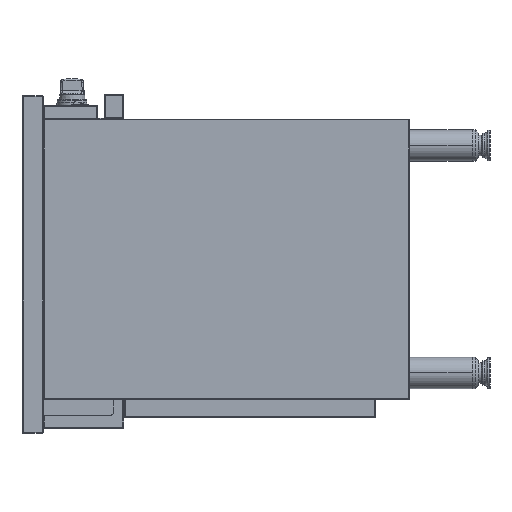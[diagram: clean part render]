
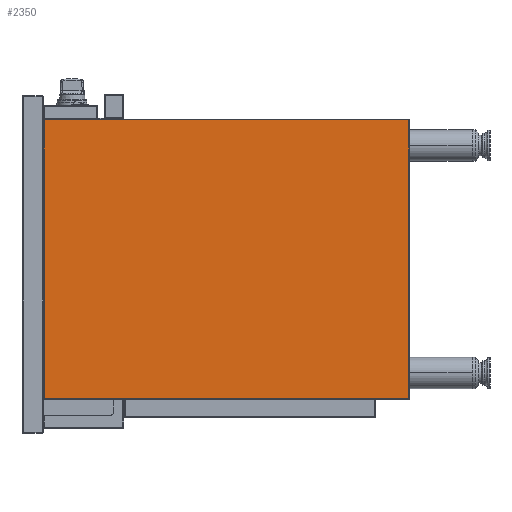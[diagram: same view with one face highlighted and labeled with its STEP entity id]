
A CAD part, left-side view. The second image highlights one B-rep face of the part: STEP entity #2350.
In plain terms, the highlighted planar face has unit normal (-1, 0, 0).
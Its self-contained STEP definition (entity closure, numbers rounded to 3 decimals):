
#375=DIRECTION('',(0.,0.,-1.));
#376=VECTOR('',#375,536.4);
#377=CARTESIAN_POINT('',(-199.,350.7,268.2));
#378=LINE('',#377,#376);
#379=DIRECTION('',(0.,1.,0.));
#380=VECTOR('',#379,701.4);
#381=CARTESIAN_POINT('',(-199.,-350.7,268.2));
#382=LINE('',#381,#380);
#383=DIRECTION('',(0.,0.,1.));
#384=VECTOR('',#383,536.4);
#385=CARTESIAN_POINT('',(-199.,-350.7,-268.2));
#386=LINE('',#385,#384);
#387=DIRECTION('',(0.,-1.,0.));
#388=VECTOR('',#387,701.4);
#389=CARTESIAN_POINT('',(-199.,350.7,-268.2));
#390=LINE('',#389,#388);
#1469=CARTESIAN_POINT('',(-199.,350.7,268.2));
#1470=CARTESIAN_POINT('',(-199.,350.7,-268.2));
#1471=VERTEX_POINT('',#1469);
#1472=VERTEX_POINT('',#1470);
#1473=CARTESIAN_POINT('',(-199.,-350.7,268.2));
#1474=VERTEX_POINT('',#1473);
#1493=CARTESIAN_POINT('',(-199.,-350.7,-268.2));
#1494=VERTEX_POINT('',#1493);
#2336=CARTESIAN_POINT('',(-199.,0.,0.));
#2337=DIRECTION('',(1.,0.,0.));
#2338=DIRECTION('',(0.,0.,-1.));
#2339=AXIS2_PLACEMENT_3D('',#2336,#2337,#2338);
#2340=PLANE('',#2339);
#2342=ORIENTED_EDGE('',*,*,#2341,.F.);
#2343=ORIENTED_EDGE('',*,*,#2326,.F.);
#2345=ORIENTED_EDGE('',*,*,#2344,.F.);
#2347=ORIENTED_EDGE('',*,*,#2346,.F.);
#2348=EDGE_LOOP('',(#2342,#2343,#2345,#2347));
#2349=FACE_OUTER_BOUND('',#2348,.F.);
#2326=EDGE_CURVE('',#1474,#1471,#382,.T.);
#2341=EDGE_CURVE('',#1471,#1472,#378,.T.);
#2344=EDGE_CURVE('',#1494,#1474,#386,.T.);
#2346=EDGE_CURVE('',#1472,#1494,#390,.T.);
#2350=ADVANCED_FACE('',(#2349),#2340,.F.);
